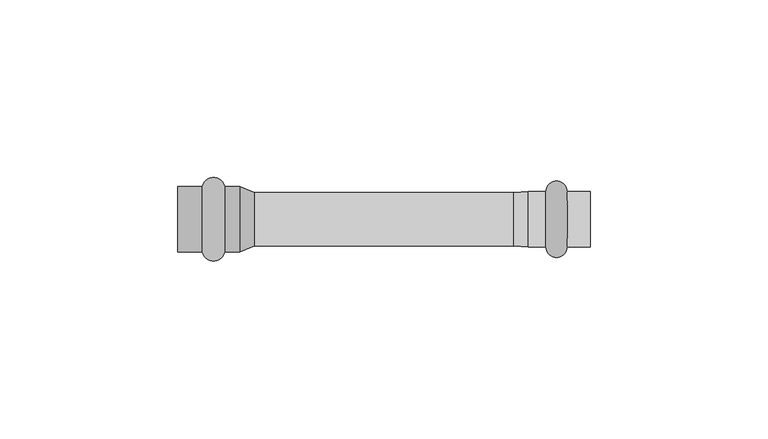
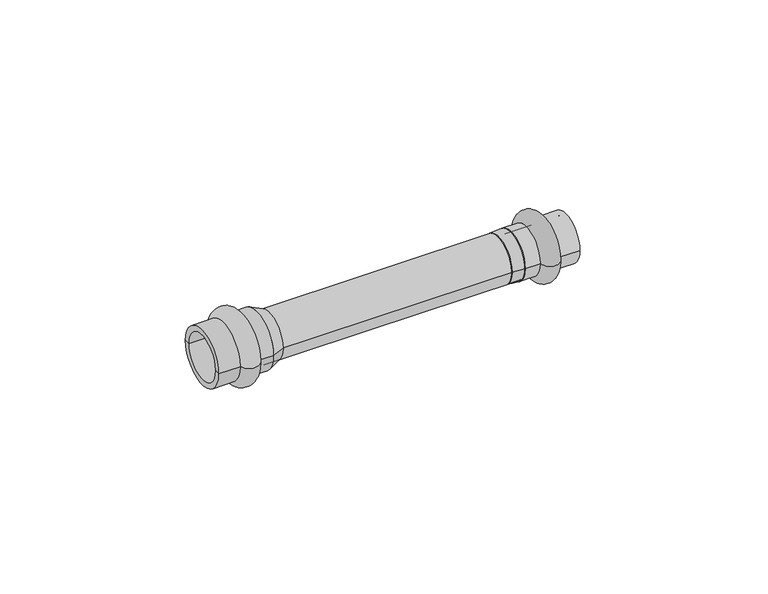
"""IFC4 building model written with IfcOpenShell, lengths in millimetres: pipe fitting geometry, VALTEC_VTi.903.I_Соединитель прямой нержавеющая сталь : VTi.903.I."""

from ifc_helpers import new_model, si_unit, point, frame, origin, origin_2d, place, context, project, spatial, polyline, circle_curve, ellipse_curve, trimmed, segment, composite_curve, outline, extrude, source, transform, mapped, element, save
from ifc_brep_helpers import plane_surface, cylinder_surface, revolved_surface, advanced_brep


def pipe_fitting_84665fc4(model_context):
    return source(origin(), model_context, "Body", "SolidModel", [
        advanced_brep(
        [(109.5, 7.75, 0.0), (109.5, -7.75, 0.0), (103.5, -7.75, 0.0), (103.5, 7.75, 0.0), (116.0, 7.75, 0.0), (116.0, -7.75, 0.0), (116.0, 6.0, 0.0), (116.0, -6.0, 0.0), (98.6, 6.0, 0.0), (98.6, -6.0, 0.0), (98.6, 7.75, 0.0), (98.6, -7.75, 0.0)],
        [
            (0, 1, circle_curve(frame((109.5, 0.0, 0.0), z_axis=(-1.0, 0.0, 0.0), x_axis=(0.0, -1.0, 0.0)), 7.75)),
            (1, 2, circle_curve(frame((106.5, -7.75, 0.0), z_axis=(0.0, 0.0, -1.0), x_axis=(-1.0, 0.0, 0.0)), 3.0)),
            (2, 3, circle_curve(frame((103.5, 0.0, 0.0), z_axis=(1.0, 0.0, 0.0), x_axis=(0.0, -1.0, 0.0)), 7.75)),
            (3, 0, circle_curve(frame((106.5, 7.75, 0.0), z_axis=(0.0, 0.0, -1.0), x_axis=(-1.0, 0.0, 0.0)), 3.0)),
            (1, 0, circle_curve(frame((109.5, 0.0, 0.0), z_axis=(-1.0, 0.0, 0.0), x_axis=(0.0, -1.0, 0.0)), 7.75)),
            (3, 2, circle_curve(frame((103.5, 0.0, 0.0), z_axis=(1.0, 0.0, 0.0), x_axis=(0.0, -1.0, 0.0)), 7.75)),
            (4, 5, circle_curve(frame((116.0, 0.0, 0.0), z_axis=(-1.0, 0.0, 0.0), x_axis=(0.0, -1.0, 0.0)), 7.75)),
            (5, 1),
            (0, 4),
            (5, 4, circle_curve(frame((116.0, 0.0, 0.0), z_axis=(-1.0, 0.0, 0.0), x_axis=(0.0, -1.0, 0.0)), 7.75)),
            (6, 7, circle_curve(frame((116.0, 0.0, 0.0), z_axis=(-1.0, 0.0, 0.0), x_axis=(0.0, -1.0, 0.0)), 6.0)),
            (7, 5),
            (4, 6),
            (7, 6, circle_curve(frame((116.0, 0.0, 0.0), z_axis=(-1.0, 0.0, 0.0), x_axis=(0.0, -1.0, 0.0)), 6.0)),
            (8, 9, circle_curve(frame((98.6, 0.0, 0.0), z_axis=(-1.0, 0.0, 0.0), x_axis=(0.0, -1.0, 0.0)), 6.0)),
            (9, 7),
            (6, 8),
            (9, 8, circle_curve(frame((98.6, 0.0, 0.0), z_axis=(-1.0, 0.0, 0.0), x_axis=(0.0, -1.0, 0.0)), 6.0)),
            (10, 11, circle_curve(frame((98.6, 0.0, 0.0), z_axis=(-1.0, 0.0, 0.0), x_axis=(0.0, -1.0, 0.0)), 7.75)),
            (11, 9),
            (8, 10),
            (11, 10, circle_curve(frame((98.6, 0.0, 0.0), z_axis=(-1.0, 0.0, 0.0), x_axis=(0.0, -1.0, 0.0)), 7.75)),
            (2, 11),
            (10, 3),
        ],
        [
            revolved_surface(trimmed(ellipse_curve(frame((106.5, -7.75, 0.0), z_axis=(0.0, 0.0, 1.0), x_axis=(-1.0, 0.0, 0.0)), 3.0, 3.0), [point((103.5, -7.75, 0.0))], [point((109.5, -7.75, 0.0))], True, "CARTESIAN"), (119.5364426, 0.0, 0.0), (1.0, 0.0, 0.0)),
            cylinder_surface(frame((119.5364426, 0.0, 0.0), z_axis=(1.0, 0.0, 0.0), x_axis=(0.0, -1.0, 0.0)), 7.75),
            plane_surface(frame((116.0, 0.0, 0.0), z_axis=(1.0, 0.0, 0.0), x_axis=(0.0, -1.0, 0.0))),
            revolved_surface(polyline([(116.0, -6.0, 0.0), (98.6, -6.0, 0.0)]), (119.5364426, 0.0, 0.0), (1.0, 0.0, 0.0)),
            plane_surface(frame((98.6, 0.0, 0.0), z_axis=(-1.0, 0.0, 0.0), x_axis=(0.0, -1.0, 0.0))),
        ],
        [
            (0, [[1, 2, 3, 4]]),
            (0, [[5, -4, 6, -2]]),
            (1, [[7, 8, -1, 9]]),
            (1, [[10, -9, -5, -8]]),
            (2, [[11, 12, -7, 13]]),
            (2, [[14, -13, -10, -12]]),
            (3, [[15, 16, -11, 17]]),
            (3, [[18, -17, -14, -16]]),
            (4, [[19, 20, -15, 21]]),
            (4, [[22, -21, -18, -20]]),
            (1, [[-3, 23, -19, 24]]),
            (1, [[-6, -24, -22, -23]]),
        ],
    ),
        advanced_brep(
        [(6.8877223, -9.25, 0.0), (6.8877223, 9.25, 0.0), (13.2122777, 9.25, 0.0), (13.2122777, -9.25, 0.0), (0.0, -9.25, 0.0), (0.0, 9.25, 0.0), (0.0, -7.5, 0.0), (0.0, 7.5, 0.0), (17.4, -7.5, 0.0), (17.4, 7.5, 0.0), (17.4, -9.25, 0.0), (17.4, 9.25, 0.0)],
        [
            (0, 1, circle_curve(frame((6.8877223, 0.0, 0.0), z_axis=(1.0, 0.0, 0.0), x_axis=(0.0, 1.0, 0.0)), 9.25)),
            (1, 2, circle_curve(frame((10.05, 8.5, 0.0), z_axis=(0.0, 0.0, -1.0), x_axis=(1.0, 0.0, 0.0)), 3.25)),
            (2, 3, circle_curve(frame((13.2122777, 0.0, 0.0), z_axis=(-1.0, 0.0, 0.0), x_axis=(0.0, 1.0, 0.0)), 9.25)),
            (3, 0, circle_curve(frame((10.05, -8.5, 0.0), z_axis=(0.0, 0.0, -1.0), x_axis=(1.0, 0.0, 0.0)), 3.25)),
            (1, 0, circle_curve(frame((6.8877223, 0.0, 0.0), z_axis=(1.0, 0.0, 0.0), x_axis=(0.0, 1.0, 0.0)), 9.25)),
            (3, 2, circle_curve(frame((13.2122777, 0.0, 0.0), z_axis=(-1.0, 0.0, 0.0), x_axis=(0.0, 1.0, 0.0)), 9.25)),
            (4, 5, circle_curve(frame((0.0, 0.0, 0.0), z_axis=(1.0, 0.0, 0.0), x_axis=(0.0, 1.0, 0.0)), 9.25)),
            (5, 1),
            (0, 4),
            (5, 4, circle_curve(frame((0.0, 0.0, 0.0), z_axis=(1.0, 0.0, 0.0), x_axis=(0.0, 1.0, 0.0)), 9.25)),
            (6, 7, circle_curve(frame((0.0, 0.0, 0.0), z_axis=(1.0, 0.0, 0.0), x_axis=(0.0, 1.0, 0.0)), 7.5)),
            (7, 5),
            (4, 6),
            (7, 6, circle_curve(frame((0.0, 0.0, 0.0), z_axis=(1.0, 0.0, 0.0), x_axis=(0.0, 1.0, 0.0)), 7.5)),
            (8, 9, circle_curve(frame((17.4, 0.0, 0.0), z_axis=(1.0, 0.0, 0.0), x_axis=(0.0, 1.0, 0.0)), 7.5)),
            (9, 7),
            (6, 8),
            (9, 8, circle_curve(frame((17.4, 0.0, 0.0), z_axis=(1.0, 0.0, 0.0), x_axis=(0.0, 1.0, 0.0)), 7.5)),
            (10, 11, circle_curve(frame((17.4, 0.0, 0.0), z_axis=(1.0, 0.0, 0.0), x_axis=(0.0, 1.0, 0.0)), 9.25)),
            (11, 9),
            (8, 10),
            (11, 10, circle_curve(frame((17.4, 0.0, 0.0), z_axis=(1.0, 0.0, 0.0), x_axis=(0.0, 1.0, 0.0)), 9.25)),
            (2, 11),
            (10, 3),
        ],
        [
            revolved_surface(trimmed(ellipse_curve(frame((10.05, 8.5, 0.0), z_axis=(0.0, 0.0, 1.0), x_axis=(1.0, 0.0, 0.0)), 3.25, 3.25), [point((13.2122777, 9.25, 0.0))], [point((6.8877223, 9.25, 0.0))], True, "CARTESIAN"), (-3.5364426, 0.0, 0.0), (-1.0, 0.0, 0.0)),
            cylinder_surface(frame((-3.5364426, 0.0, 0.0), z_axis=(-1.0, 0.0, 0.0), x_axis=(0.0, 1.0, 0.0)), 9.25),
            plane_surface(frame((0.0, 0.0, 0.0), z_axis=(-1.0, 0.0, 0.0), x_axis=(0.0, 1.0, 0.0))),
            revolved_surface(polyline([(0.0, 7.5, 0.0), (17.4, 7.5, 0.0)]), (-3.5364426, 0.0, 0.0), (-1.0, 0.0, 0.0)),
            plane_surface(frame((17.4, 0.0, 0.0), z_axis=(1.0, 0.0, 0.0), x_axis=(0.0, 1.0, 0.0))),
        ],
        [
            (0, [[1, 2, 3, 4]]),
            (0, [[5, -4, 6, -2]]),
            (1, [[7, 8, -1, 9]]),
            (1, [[10, -9, -5, -8]]),
            (2, [[11, 12, -7, 13]]),
            (2, [[14, -13, -10, -12]]),
            (3, [[15, 16, -11, 17]]),
            (3, [[18, -17, -14, -16]]),
            (4, [[19, 20, -15, 21]]),
            (4, [[22, -21, -18, -20]]),
            (1, [[-3, 23, -19, 24]]),
            (1, [[-6, -24, -22, -23]]),
        ],
    ),
        advanced_brep(
        [(17.4, -9.25, 0.0), (17.4, 9.25, 0.0), (21.46, -7.5, 0.0), (21.46, 7.5, 0.0)],
        [
            (0, 1, circle_curve(frame((17.4, 0.0, 0.0), z_axis=(-1.0, 0.0, 0.0), x_axis=(0.0, -1.0, 0.0)), 9.25)),
            (1, 0, circle_curve(frame((17.4, 0.0, 0.0), z_axis=(-1.0, 0.0, 0.0), x_axis=(0.0, 1.0, 0.0)), 9.25)),
            (2, 3, circle_curve(frame((21.46, 0.0, 0.0), z_axis=(1.0, 0.0, 0.0), x_axis=(0.0, 1.0, 0.0)), 7.5)),
            (3, 2, circle_curve(frame((21.46, 0.0, 0.0), z_axis=(1.0, 0.0, 0.0), x_axis=(0.0, -1.0, 0.0)), 7.5)),
            (2, 0),
            (1, 3),
        ],
        [
            plane_surface(frame((17.4, 0.0, 0.0), z_axis=(-1.0, 0.0, 0.0), x_axis=(0.0, 0.0, 1.0))),
            plane_surface(frame((21.46, 0.0, 0.0), z_axis=(1.0, 0.0, 0.0), x_axis=(0.0, 0.0, 1.0))),
            revolved_surface(polyline([(21.46, -7.499999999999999, 0.0), (17.4, -9.25, 0.0)]), (38.86, 0.0, 0.0), (-1.0, 0.0, 0.0)),
            revolved_surface(polyline([(21.46, 7.499999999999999, 0.0), (17.4, 9.25, 0.0)]), (38.86, 0.0, 0.0), (-1.0, 0.0, 0.0)),
        ],
        [
            (0, [[1, 2]]),
            (1, [[3, 4]]),
            (2, [[-3, 5, -2, 6]]),
            (3, [[-4, -6, -1, -5]]),
        ],
    ),
        advanced_brep(
        [(98.6, -7.75, 0.0), (98.6, 7.75, 0.0), (94.54, -7.5, 0.0), (94.54, 7.5, 0.0)],
        [
            (0, 1, circle_curve(frame((98.6, 0.0, 0.0), z_axis=(1.0, 0.0, 0.0), x_axis=(0.0, -1.0, 0.0)), 7.75)),
            (1, 0, circle_curve(frame((98.6, 0.0, 0.0), z_axis=(1.0, 0.0, 0.0), x_axis=(0.0, 1.0, 0.0)), 7.75)),
            (2, 3, circle_curve(frame((94.54, 0.0, 0.0), z_axis=(-1.0, 0.0, 0.0), x_axis=(0.0, 1.0, 0.0)), 7.5)),
            (3, 2, circle_curve(frame((94.54, 0.0, 0.0), z_axis=(-1.0, 0.0, 0.0), x_axis=(0.0, -1.0, 0.0)), 7.5)),
            (3, 1),
            (0, 2),
        ],
        [
            plane_surface(frame((98.6, 0.0, 0.0), z_axis=(1.0, 0.0, 0.0), x_axis=(0.0, 0.0, -1.0))),
            plane_surface(frame((94.54, 0.0, 0.0), z_axis=(-1.0, 0.0, 0.0), x_axis=(0.0, 0.0, -1.0))),
            revolved_surface(polyline([(94.54, 7.500000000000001, 0.0), (98.6, 7.75, 0.0)]), (-27.26, 0.0, 0.0), (1.0, 0.0, 0.0)),
            revolved_surface(polyline([(94.54, -7.500000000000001, 0.0), (98.6, -7.75, 0.0)]), (-27.26, 0.0, 0.0), (1.0, 0.0, 0.0)),
        ],
        [
            (0, [[1, 2]]),
            (1, [[3, 4]]),
            (2, [[-4, 5, -1, 6]]),
            (3, [[-3, -6, -2, -5]]),
        ],
    ),
        extrude(outline(composite_curve([segment(trimmed(circle_curve(origin_2d(), 7.5), [point((-7.5, 0.0))], [point((7.5, 0.0))], False, "CARTESIAN"), True, "CONTINUOUS"), segment(trimmed(circle_curve(origin_2d(), 7.5), [point((7.5, 0.0))], [point((-7.5, 0.0))], False, "CARTESIAN"), True, "CONTINUOUS")], self_intersect=False)), frame((17.4, 0.0, 0.0), z_axis=(1.0, 0.0, 0.0), x_axis=(0.0, 1.0, 0.0)), (0.0, 0.0, 1.0), 81.2),
    ])


if __name__ == "__main__":
    model = new_model("IFC4")
    model_context = context("Model", 3, world=origin())
    ifc_project = project(units=[si_unit("LENGTHUNIT", "METRE", prefix="MILLI")], contexts=[model_context])
    site = spatial("IfcSite", under=ifc_project)
    building = spatial("IfcBuilding", under=site)
    placement = place(None, origin())
    pipe_fitting_shape = pipe_fitting_84665fc4(model_context)
    element("IfcPipeFitting", 1, ObjectType="VALTEC_VTi.903.I_Соединитель прямой нержавеющая сталь : VTi.903.I", at=placement, inside=building, context=model_context, shape_type="MappedRepresentation", body=[
        mapped(pipe_fitting_shape, transform((0.0, 0.0, 0.0), x_axis=(1.0, 0.0, 0.0), y_axis=(0.0, 1.0, 0.0), z_axis=(0.0, 0.0, 1.0))),
    ])
    save(model, "model.ifc")
